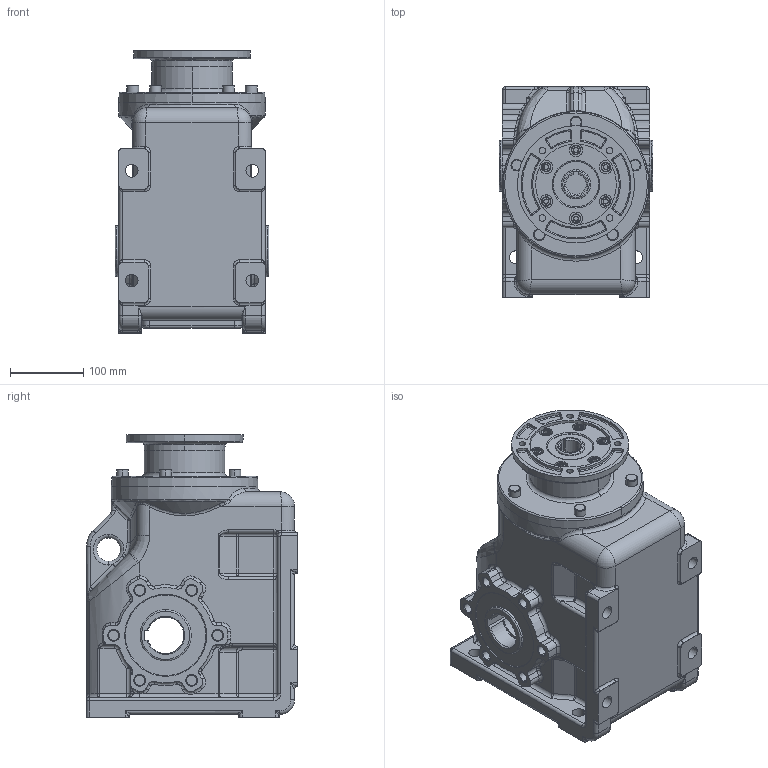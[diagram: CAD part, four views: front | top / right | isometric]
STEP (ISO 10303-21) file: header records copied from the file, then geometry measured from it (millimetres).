
FILE_DESCRIPTION (( 'STEP AP214' ), '1' );
FILE_NAME ('ktm53133-hohlwelle-f130-ap100.STEP', '2009-07-14T09:05:20', ( '' ), ( '' ), 'SwSTEP 2.0', 'SolidWorks 2003240', '' );
FILE_SCHEMA (( 'AUTOMOTIVE_DESIGN' ));
Length unit declared in the file: millimetre
Products named in the file (4): skøíò KTM53_Skøíò KTM53-Hohlwelle-FM-AP100; Pøíruba MRT120 kulatá _110-130-150; N021143_Šroub s vnitøním šestihranem DIN 912 - M8 x 25; ktm53133-hohlwelle-f130-ap100
Assembly tree (8 placements, depth 2):
  ktm53133-hohlwelle-f130-ap100
    N021143_Šroub s vnitøním šestihranem DIN 912 - M8 x 25  x6
    skøíò KTM53_Skøíò KTM53-Hohlwelle-FM-AP100
    Pøíruba MRT120 kulatá _110-130-150
Bounding box: 210 x 288 x 386 mm (x, y, z)
Volume: 13952458.4 mm3; surface area: 599866.8 mm2
Topology: 8 solids, 8 shells, 1180 faces, 2751 edges, 1583 vertices
Faces by surface type: cylinder 434, plane 235, torus 198, bspline 156, cone 133, sphere 24
Entity records: 128353 total; most frequent: CARTESIAN_POINT 103675, DIRECTION 5233, ORIENTED_EDGE 4910, EDGE_CURVE 2455, AXIS2_PLACEMENT_3D 2195, VERTEX_POINT 1453, CIRCLE 1290, EDGE_LOOP 1134
